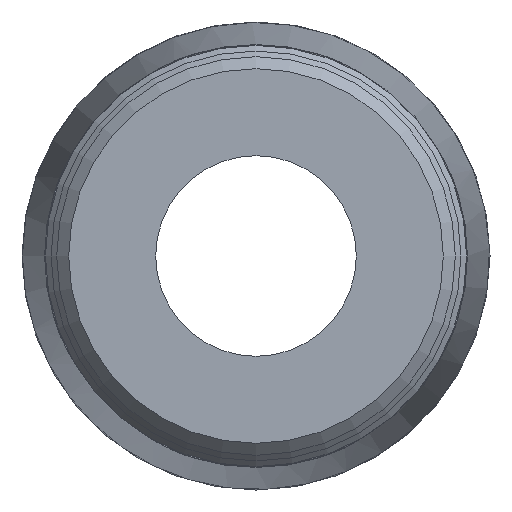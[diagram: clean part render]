
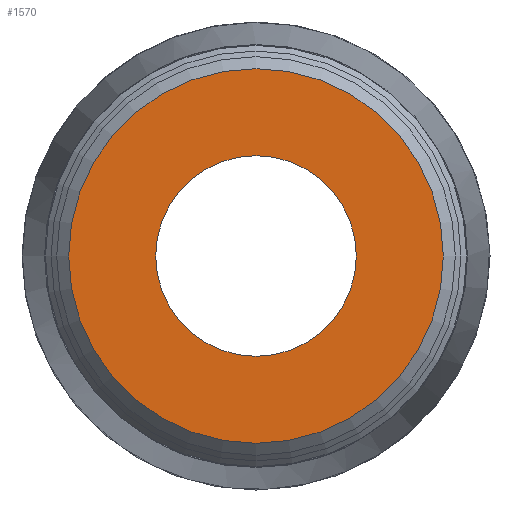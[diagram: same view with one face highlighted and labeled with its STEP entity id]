
A CAD part, left-side view. The second image highlights one B-rep face of the part: STEP entity #1570.
In plain terms, the highlighted planar face has unit normal (-1, 0, 0).
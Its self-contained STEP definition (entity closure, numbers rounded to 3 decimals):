
#261=PLANE('',#1723);
#351=FACE_BOUND('',#493,.T.);
#386=FACE_OUTER_BOUND('',#492,.T.);
#492=EDGE_LOOP('',(#1214));
#493=EDGE_LOOP('',(#1215));
#621=CIRCLE('',#1719,28.019);
#624=CIRCLE('',#1724,15.);
#730=VERTEX_POINT('',#2791);
#733=VERTEX_POINT('',#2799);
#907=EDGE_CURVE('',#730,#730,#621,.T.);
#910=EDGE_CURVE('',#733,#733,#624,.T.);
#1214=ORIENTED_EDGE('',*,*,#907,.F.);
#1215=ORIENTED_EDGE('',*,*,#910,.T.);
#1570=ADVANCED_FACE('',(#386,#351),#261,.T.);
#1719=AXIS2_PLACEMENT_3D('',#2792,#2000,#2001);
#1723=AXIS2_PLACEMENT_3D('',#2798,#2008,#2009);
#1724=AXIS2_PLACEMENT_3D('',#2800,#2010,#2011);
#2000=DIRECTION('center_axis',(1.,0.,0.));
#2001=DIRECTION('ref_axis',(0.,-1.,0.));
#2008=DIRECTION('center_axis',(-1.,0.,0.));
#2009=DIRECTION('ref_axis',(0.,0.,1.));
#2010=DIRECTION('center_axis',(1.,0.,0.));
#2011=DIRECTION('ref_axis',(0.,0.,-1.));
#2791=CARTESIAN_POINT('',(0.,28.019,0.));
#2792=CARTESIAN_POINT('Origin',(0.,0.,0.));
#2798=CARTESIAN_POINT('Origin',(0.,29.807,0.));
#2799=CARTESIAN_POINT('',(0.,15.,0.));
#2800=CARTESIAN_POINT('Origin',(0.,0.,0.));
